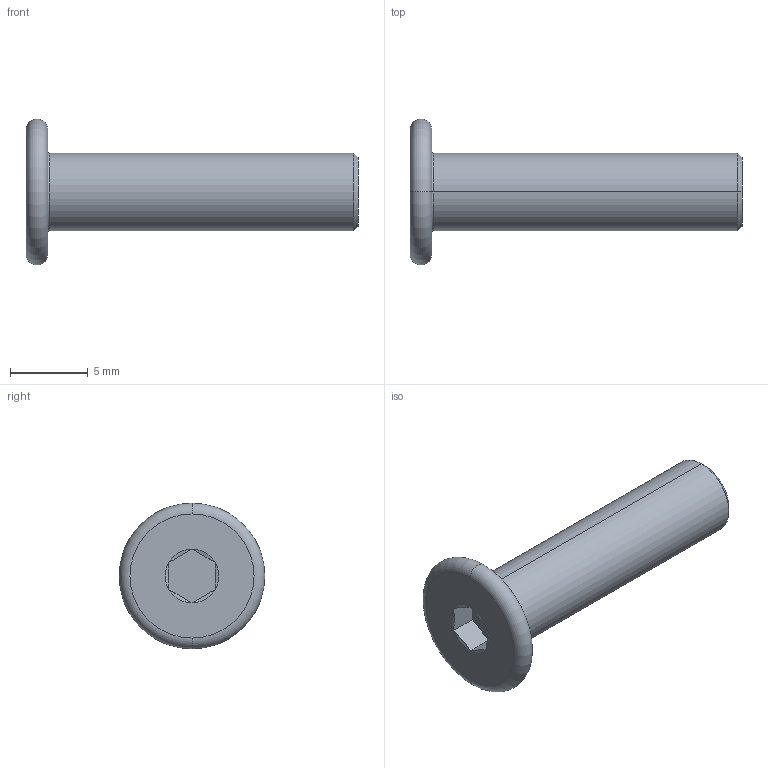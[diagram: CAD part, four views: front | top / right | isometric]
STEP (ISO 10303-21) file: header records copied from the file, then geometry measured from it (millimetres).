
FILE_DESCRIPTION (( 'STEP AP203' ), '1' );
FILE_NAME ('LGD-304M-M5x20.STEP', '2026-08-13T10:41:46', ( '' ), ( '' ), 'SwSTEP 2.0', 'SolidWorks 2020', '' );
FILE_SCHEMA (( 'CONFIG_CONTROL_DESIGN' ));
Length unit declared in the file: millimetre
Products named in the file (1): LGD-304M-M5x20
Bounding box: 21.4 x 9.4 x 9.4 mm (x, y, z)
Volume: 469.9 mm3; surface area: 489.8 mm2
Topology: 1 solids, 1 shells, 24 faces, 44 edges, 24 vertices
Faces by surface type: plane 10, cone 8, torus 4, cylinder 2
Entity records: 673 total; most frequent: CARTESIAN_POINT 119, DIRECTION 110, ORIENTED_EDGE 88, AXIS2_PLACEMENT_3D 47, EDGE_CURVE 44, EDGE_LOOP 26, VERTEX_POINT 24, ADVANCED_FACE 24
